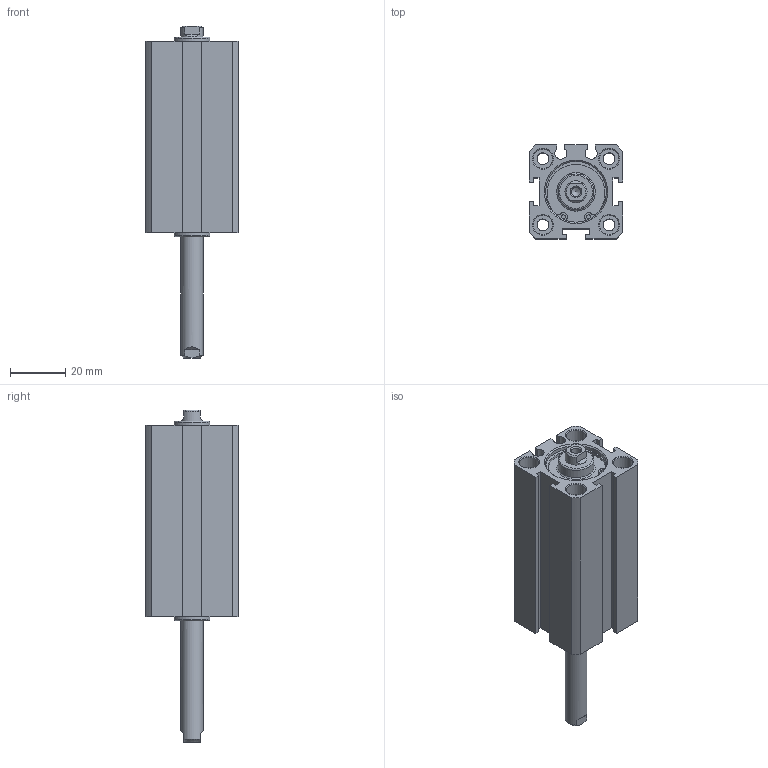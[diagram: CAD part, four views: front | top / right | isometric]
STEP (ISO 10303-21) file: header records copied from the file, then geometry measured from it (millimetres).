
FILE_DESCRIPTION((''),'2;1');
FILE_NAME('I:\3D電子目錄\氣缸\JDD\JDD-S\JDD20-S\JDD20x40-S.stp','2007-02-08T14:19:34',('662F206'),(''),'Autodesk Inventor 10','Autodesk Inventor 10','');
FILE_SCHEMA(('AUTOMOTIVE_DESIGN { 1 0 10303 214 1 1 1 1 }'));
Length unit declared in the file: millimetre
Products named in the file (3): JDD20-S; R 形環 23
Assembly tree (3 placements, depth 2):
  JDD20-S
    JDD20-S
    R 形環 23  x2
Bounding box: 34 x 34 x 120.5 mm (x, y, z)
Volume: 66761.9 mm3; surface area: 22444.5 mm2
Topology: 3 solids, 3 shells, 149 faces, 346 edges, 225 vertices
Faces by surface type: plane 70, cylinder 47, cone 18, bspline 12, torus 2
Full cylindrical faces by diameter (mm): 1.5 x6, 4.3 x4, 7 x8, 8 x1, 13 x2, 22 x4, 23.2 x2
Entity records: 3819 total; most frequent: CARTESIAN_POINT 813, DIRECTION 626, ORIENTED_EDGE 514, EDGE_CURVE 257, AXIS2_PLACEMENT_3D 246, EDGE_LOOP 220, VERTEX_POINT 195, FACE_OUTER_BOUND 137
